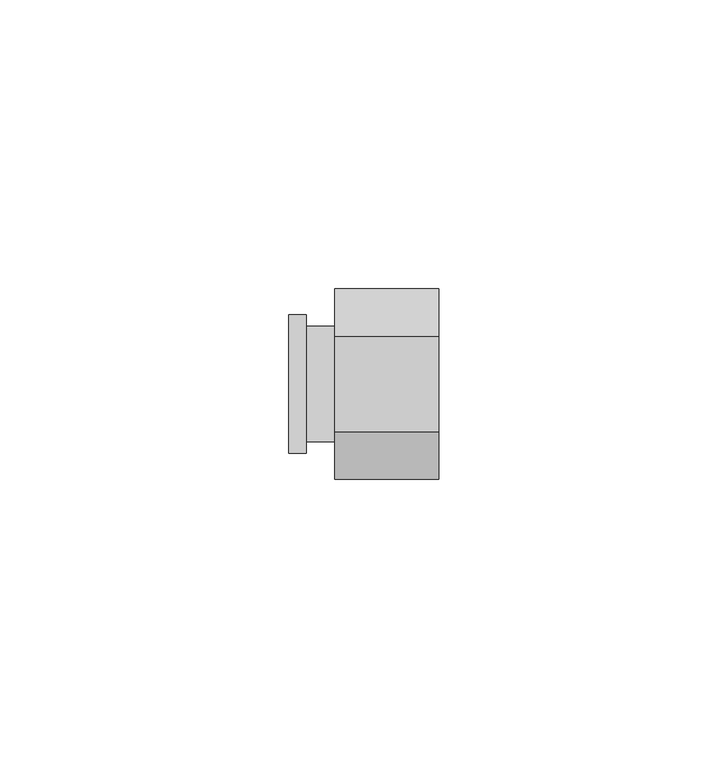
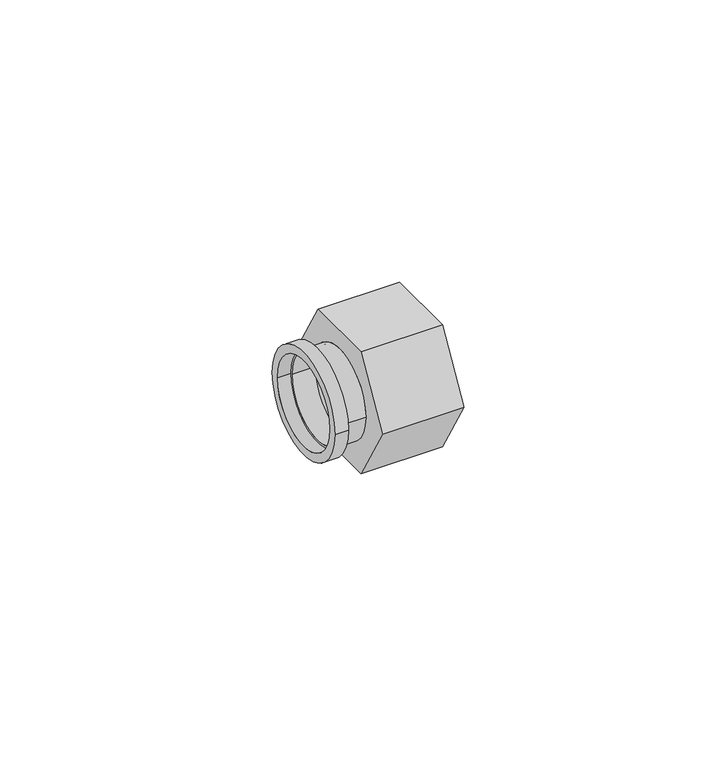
"""IFC4 building model written with IfcOpenShell, lengths in millimetres: pipe fitting geometry, БИР ПЕКС_КМП_Соединитель_Резьба_Наружная : Соединитель прямой с наружной резьбой_КМП."""

import ifcopenshell
import ifcopenshell.guid

model = None  # the IFC model being written
_history = None  # IfcOwnerHistory: only IFC2X3 demands one
_inside = {}  # id of a spatial element -> (the spatial element, [elements in it])
_under = {}  # id of a project, library or spatial element -> (it, [spatial elements below it])
_declared = {}  # id of a project -> (the project, [libraries it declares])
_typed = {}  # id of a type object -> (the type object, [elements of that type])
_made_of = {}  # id of a material, layer set ... -> (it, [elements and type objects made of it])


def new_model(schema):
    """Start an empty IFC model of exactly this schema.

    Asked for "IFC4X3", IfcOpenShell would pick the latest addendum, in which some entities
    have other attributes; the version numbers below select the first issue.
    IFC2X3 requires an IfcOwnerHistory on every rooted entity: one is made here for all.
    """
    global model, _history
    if schema == "IFC4X3":
        model = ifcopenshell.file(schema_version=(4, 3, 0, 0))
    else:
        model = ifcopenshell.file(schema=schema)
    _inside.clear()
    _under.clear()
    _declared.clear()
    _typed.clear()
    _made_of.clear()
    _history = None
    if model.schema == "IFC2X3":
        org = make("IfcOrganization", Name="unknown")
        user = make(
            "IfcPersonAndOrganization",
            ThePerson=make("IfcPerson", FamilyName="unknown"),
            TheOrganization=org,
        )
        app = make(
            "IfcApplication",
            ApplicationDeveloper=org,
            Version="unknown",
            ApplicationFullName="unknown",
            ApplicationIdentifier="unknown",
        )
        _history = make(
            "IfcOwnerHistory",
            OwningUser=user,
            OwningApplication=app,
            ChangeAction="ADDED",
            CreationDate=0,
        )
    return model


def make(cls, **values):
    """One entity of the class cls with the attributes given. An attribute that is None is left unset."""
    return model.create_entity(
        cls, **{name: value for name, value in values.items() if value is not None}
    )


def rooted(cls, **values):
    """An entity with a GlobalId (a new one), such as an element, a storey or a relation."""
    return make(cls, GlobalId=ifcopenshell.guid.new(), OwnerHistory=_history, **values)


def si_unit(unit_type, name, prefix=None):
    """IfcSIUnit, for example si_unit("LENGTHUNIT", "METRE", prefix="MILLI")."""
    return make("IfcSIUnit", UnitType=unit_type, Prefix=prefix, Name=name)


def assignment(units):
    """IfcUnitAssignment: the units of a project."""
    return None if units is None else make("IfcUnitAssignment", Units=units)


def point(xyz):
    """IfcCartesianPoint."""
    return None if xyz is None else make("IfcCartesianPoint", Coordinates=xyz)


def direction(xyz):
    """IfcDirection."""
    return None if xyz is None else make("IfcDirection", DirectionRatios=xyz)


def frame(location, z_axis=None, x_axis=None):
    """IfcAxis2Placement3D, a coordinate frame: its origin and axes. An axis left out is left unset."""
    return make(
        "IfcAxis2Placement3D",
        Location=point(location),
        Axis=direction(z_axis),
        RefDirection=direction(x_axis),
    )


def frame_2d(location, x_axis=None):
    """IfcAxis2Placement2D, a coordinate frame in the plane: its origin and x axis."""
    return make(
        "IfcAxis2Placement2D", Location=point(location), RefDirection=direction(x_axis)
    )


def origin():
    """The frame at (0, 0, 0) with its axes left unset."""
    return frame((0.0, 0.0, 0.0))


def origin_2d():
    """The frame at (0, 0) in the plane with its x axis left unset."""
    return frame_2d((0.0, 0.0))


def place(relative_to, where):
    """IfcLocalPlacement: puts the frame where relative to a parent placement (None: the world)."""
    return make(
        "IfcLocalPlacement", PlacementRelTo=relative_to, RelativePlacement=where
    )


def context(
    kind, dimensions, precision=None, world=None, true_north=None, identifier=None
):
    """IfcGeometricRepresentationContext, for example the 3D "Model" context."""
    return make(
        "IfcGeometricRepresentationContext",
        ContextIdentifier=identifier,
        ContextType=kind,
        CoordinateSpaceDimension=dimensions,
        Precision=precision,
        WorldCoordinateSystem=world,
        TrueNorth=true_north,
    )


def project(units=None, contexts=None):
    """IfcProject with its units and contexts."""
    return rooted(
        "IfcProject",
        Name="project",
        RepresentationContexts=contexts,
        UnitsInContext=assignment(units),
    )


def spatial(cls, under=None, at=None, **own):
    """A site, building, storey or space (cls), placed at a placement, below another one or the project."""
    s = rooted(cls, ObjectPlacement=at, **own)
    if under is not None:
        _under.setdefault(under.id(), (under, []))[1].append(s)
    return s


def polyline(points):
    """IfcPolyline through the points."""
    return make("IfcPolyline", Points=[point(p) for p in points])


def circle_curve(where, radius):
    """IfcCircle in the frame where."""
    return make("IfcCircle", Position=where, Radius=radius)


def trimmed(basis, trim1, trim2, sense, master):
    """IfcTrimmedCurve: the piece of a basis curve between two trims."""
    return make(
        "IfcTrimmedCurve",
        BasisCurve=basis,
        Trim1=trim1,
        Trim2=trim2,
        SenseAgreement=sense,
        MasterRepresentation=master,
    )


def segment(curve, same_sense, transition):
    """IfcCompositeCurveSegment."""
    return make(
        "IfcCompositeCurveSegment",
        Transition=transition,
        SameSense=same_sense,
        ParentCurve=curve,
    )


def composite_curve(segments, self_intersect=None):
    """IfcCompositeCurve: segments joined end to end."""
    return make("IfcCompositeCurve", Segments=segments, SelfIntersect=self_intersect)


def outline(outer, holes=None, kind="AREA"):
    """IfcArbitraryClosedProfileDef: a profile drawn as a closed curve; with holes, ...WithVoids."""
    if holes is None:
        return make("IfcArbitraryClosedProfileDef", ProfileType=kind, OuterCurve=outer)
    return make(
        "IfcArbitraryProfileDefWithVoids",
        ProfileType=kind,
        OuterCurve=outer,
        InnerCurves=holes,
    )


def extrude(swept, where, along, depth):
    """IfcExtrudedAreaSolid: the profile swept, set in the frame where, extruded along a direction by depth."""
    return make(
        "IfcExtrudedAreaSolid",
        SweptArea=swept,
        Position=where,
        ExtrudedDirection=direction(along),
        Depth=depth,
    )


def shape(context_of_items, identifier, shape_type, items):
    """IfcShapeRepresentation: the items that make up one representation, for example the "Body"."""
    return make(
        "IfcShapeRepresentation",
        ContextOfItems=context_of_items,
        RepresentationIdentifier=identifier,
        RepresentationType=shape_type,
        Items=items,
    )


def source(mapping_origin, context_of_items, identifier, shape_type, items):
    """IfcRepresentationMap: a shape defined once, which mapped items show again and again."""
    return make(
        "IfcRepresentationMap",
        MappingOrigin=mapping_origin,
        MappedRepresentation=shape(context_of_items, identifier, shape_type, items),
    )


def transform(
    local_origin,
    x_axis=None,
    y_axis=None,
    z_axis=None,
    scale=None,
    scale2=None,
    scale3=None,
    uniform=True,
):
    """IfcCartesianTransformationOperator3D, or its non-uniform kind. x_axis, y_axis, z_axis: its Axis1, 2, 3."""
    if uniform:
        return make(
            "IfcCartesianTransformationOperator3D",
            Axis1=direction(x_axis),
            Axis2=direction(y_axis),
            LocalOrigin=point(local_origin),
            Scale=scale,
            Axis3=direction(z_axis),
        )
    return make(
        "IfcCartesianTransformationOperator3DnonUniform",
        Axis1=direction(x_axis),
        Axis2=direction(y_axis),
        LocalOrigin=point(local_origin),
        Scale=scale,
        Axis3=direction(z_axis),
        Scale2=scale2,
        Scale3=scale3,
    )


def mapped(mapping_source, mapping_target):
    """IfcMappedItem: shows the shape of a source again, moved by a transform."""
    return make(
        "IfcMappedItem", MappingSource=mapping_source, MappingTarget=mapping_target
    )


def made_of(thing, what):
    """Note that an element or type object is made of a material, layer set ...; save() writes the relation."""
    if what is not None:
        _made_of.setdefault(what.id(), (what, []))[1].append(thing)
    return thing


def element(
    cls,
    number,
    at=None,
    inside=None,
    cuts=None,
    type_object=None,
    material=None,
    context=None,
    identifier="Body",
    shape_type=None,
    held_by="IfcProductDefinitionShape",
    body=None,
    shapes=None,
    **own,
):
    """One element of the class cls, such as IfcWall. Its Tag is "e" and its number.

    at: its placement. inside: the storey or other place that contains it. cuts: it is an
    opening in that element (IfcRelVoidsElement). A single representation is given by context,
    identifier, shape_type and body (its items); several are given by shapes. held_by: the class
    of the entity that holds the representations. save() writes the other relations.
    """
    e = rooted(cls, Tag="e%d" % number, ObjectPlacement=at, **own)
    if body is not None:
        shapes = [shape(context, identifier, shape_type, body)]
    if shapes is not None:
        e.Representation = make(held_by, Representations=shapes)
    if inside is not None:
        _inside.setdefault(inside.id(), (inside, []))[1].append(e)
    if cuts is not None:
        rooted(
            "IfcRelVoidsElement", RelatingBuildingElement=cuts, RelatedOpeningElement=e
        )
    if type_object is not None:
        _typed.setdefault(type_object.id(), (type_object, []))[1].append(e)
    return made_of(e, material)


def aggregate(whole, parts):
    """IfcRelAggregates: a whole, such as a stair, and the parts it consists of."""
    return rooted("IfcRelAggregates", RelatingObject=whole, RelatedObjects=parts)


def save(model, path):
    """Write the relations noted so far, then the file.

    IfcRelAggregates (storeys below a building ...), IfcRelContainedInSpatialStructure (elements
    in a storey), IfcRelDefinesByType, IfcRelAssociatesMaterial and IfcRelDeclares: one each for
    every whole, place, type object, material and project.
    """
    for whole, parts in _under.values():
        aggregate(whole, parts)
    for where, things in _inside.values():
        rooted(
            "IfcRelContainedInSpatialStructure",
            RelatedElements=things,
            RelatingStructure=where,
        )
    for kind, things in _typed.values():
        rooted("IfcRelDefinesByType", RelatedObjects=things, RelatingType=kind)
    for what, things in _made_of.values():
        rooted("IfcRelAssociatesMaterial", RelatedObjects=things, RelatingMaterial=what)
    for by, libraries in _declared.values():
        rooted("IfcRelDeclares", RelatingContext=by, RelatedDefinitions=libraries)
    model.write(path)


def pipe_fitting_389e3f89(model_context):
    return source(origin(), model_context, "Body", "SweptSolid", [
        extrude(outline(polyline([(-8.25, -14.2894192), (-16.5, 0.0), (-8.25, 14.2894192), (8.25, 14.2894192), (16.5, 0.0), (8.25, -14.2894192), (-8.25, -14.2894192)]), holes=[composite_curve([segment(trimmed(circle_curve(origin_2d(), 10.0), [point((-10.0, 0.0))], [point((10.0, 0.0))], True, "CARTESIAN"), True, "CONTINUOUS"), segment(trimmed(circle_curve(origin_2d(), 10.0), [point((10.0, 0.0))], [point((-10.0, 0.0))], True, "CARTESIAN"), True, "CONTINUOUS")], self_intersect=False)]), frame((0.0, 0.0, 0.0), z_axis=(1.0, 0.0, 0.0), x_axis=(0.0, 1.0, 0.0)), (0.0, 0.0, 1.0), 18.0),
        extrude(outline(composite_curve([segment(trimmed(circle_curve(origin_2d(), 10.0), [point((-10.0, 0.0))], [point((10.0, 0.0))], False, "CARTESIAN"), True, "CONTINUOUS"), segment(trimmed(circle_curve(origin_2d(), 10.0), [point((10.0, 0.0))], [point((-10.0, 0.0))], False, "CARTESIAN"), True, "CONTINUOUS")], self_intersect=False), holes=[composite_curve([segment(trimmed(circle_curve(origin_2d(), 9.5), [point((-9.5, 0.0))], [point((9.5, 0.0))], True, "CARTESIAN"), True, "CONTINUOUS"), segment(trimmed(circle_curve(origin_2d(), 9.5), [point((9.5, 0.0))], [point((-9.5, 0.0))], True, "CARTESIAN"), True, "CONTINUOUS")], self_intersect=False)]), frame((-5.0, 0.0, 0.0), z_axis=(1.0, 0.0, 0.0), x_axis=(0.0, 1.0, 0.0)), (0.0, 0.0, 1.0), 5.0),
        extrude(outline(composite_curve([segment(trimmed(circle_curve(origin_2d(), 12.0), [point((-12.0, 0.0))], [point((12.0, 0.0))], False, "CARTESIAN"), True, "CONTINUOUS"), segment(trimmed(circle_curve(origin_2d(), 12.0), [point((12.0, 0.0))], [point((-12.0, 0.0))], False, "CARTESIAN"), True, "CONTINUOUS")], self_intersect=False), holes=[composite_curve([segment(trimmed(circle_curve(origin_2d(), 10.0), [point((-10.0, 0.0))], [point((10.0, 0.0))], True, "CARTESIAN"), True, "CONTINUOUS"), segment(trimmed(circle_curve(origin_2d(), 10.0), [point((10.0, 0.0))], [point((-10.0, 0.0))], True, "CARTESIAN"), True, "CONTINUOUS")], self_intersect=False)]), frame((-8.0, 0.0, 0.0), z_axis=(1.0, 0.0, 0.0), x_axis=(0.0, 1.0, 0.0)), (0.0, 0.0, 1.0), 3.0),
    ])


if __name__ == "__main__":
    model = new_model("IFC4")
    model_context = context("Model", 3, world=origin())
    ifc_project = project(units=[si_unit("LENGTHUNIT", "METRE", prefix="MILLI")], contexts=[model_context])
    site = spatial("IfcSite", under=ifc_project)
    building = spatial("IfcBuilding", under=site)
    placement = place(None, origin())
    pipe_fitting_shape = pipe_fitting_389e3f89(model_context)
    element("IfcPipeFitting", 1, ObjectType="БИР ПЕКС_КМП_Соединитель_Резьба_Наружная : Соединитель прямой с наружной резьбой_КМП", at=placement, inside=building, context=model_context, shape_type="MappedRepresentation", body=[
        mapped(pipe_fitting_shape, transform((0.0, 0.0, 0.0), x_axis=(1.0, 0.0, 0.0), y_axis=(0.0, 1.0, 0.0), z_axis=(0.0, 0.0, 1.0))),
    ])
    save(model, "model.ifc")
